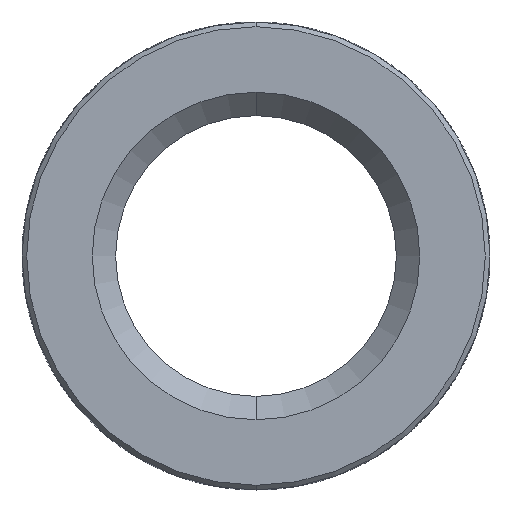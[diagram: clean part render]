
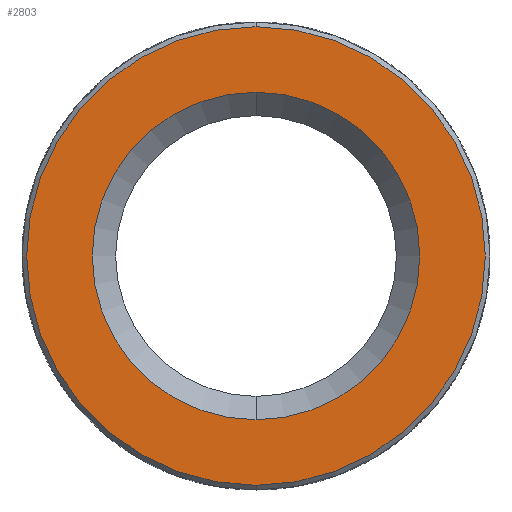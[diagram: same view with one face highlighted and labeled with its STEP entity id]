
A CAD part, front view. The second image highlights one B-rep face of the part: STEP entity #2803.
In plain terms, the highlighted planar face has unit normal (0, -1, 0).
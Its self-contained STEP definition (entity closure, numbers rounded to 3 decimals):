
#143 = CIRCLE ( 'NONE', #3414, 4.9 ) ;
#151 = CARTESIAN_POINT ( 'NONE',  ( 0., -8.6, 0. ) ) ;
#186 = EDGE_CURVE ( 'NONE', #2728, #1153, #2610, .T. ) ;
#327 = FACE_OUTER_BOUND ( 'NONE', #1294, .T. ) ;
#634 = AXIS2_PLACEMENT_3D ( 'NONE', #151, #992, #1862 ) ;
#720 = DIRECTION ( 'NONE',  ( 0., 0., -1. ) ) ;
#992 = DIRECTION ( 'NONE',  ( 0., 1., 0. ) ) ;
#1153 = VERTEX_POINT ( 'NONE', #1986 ) ;
#1264 = DIRECTION ( 'NONE',  ( 0., -1., 0. ) ) ;
#1277 = CARTESIAN_POINT ( 'NONE',  ( 0., -8.6, -3.5 ) ) ;
#1294 = EDGE_LOOP ( 'NONE', ( #2772, #1741 ) ) ;
#1306 = CARTESIAN_POINT ( 'NONE',  ( 0., -8.6, 4.9 ) ) ;
#1562 = DIRECTION ( 'NONE',  ( 0., 0., -1. ) ) ;
#1575 = DIRECTION ( 'NONE',  ( 0., -1., 0. ) ) ;
#1615 = CARTESIAN_POINT ( 'NONE',  ( 0., -8.6, 0. ) ) ;
#1741 = ORIENTED_EDGE ( 'NONE', *, *, #2252, .T. ) ;
#1784 = CARTESIAN_POINT ( 'NONE',  ( 0., -8.6, 0. ) ) ;
#1813 = FACE_BOUND ( 'NONE', #3449, .T. ) ;
#1862 = DIRECTION ( 'NONE',  ( 0., 0., -1. ) ) ;
#1891 = ORIENTED_EDGE ( 'NONE', *, *, #2166, .T. ) ;
#1978 = VERTEX_POINT ( 'NONE', #1306 ) ;
#1986 = CARTESIAN_POINT ( 'NONE',  ( 0., -8.6, 3.5 ) ) ;
#2036 = EDGE_CURVE ( 'NONE', #1978, #3755, #2586, .T. ) ;
#2049 = AXIS2_PLACEMENT_3D ( 'NONE', #3015, #1575, #720 ) ;
#2166 = EDGE_CURVE ( 'NONE', #1153, #2728, #3354, .T. ) ;
#2252 = EDGE_CURVE ( 'NONE', #3755, #1978, #143, .T. ) ;
#2586 = CIRCLE ( 'NONE', #3098, 4.9 ) ;
#2594 = DIRECTION ( 'NONE',  ( 0., 1., 0. ) ) ;
#2610 = CIRCLE ( 'NONE', #634, 3.5 ) ;
#2643 = DIRECTION ( 'NONE',  ( 0., -1., 0. ) ) ;
#2663 = CARTESIAN_POINT ( 'NONE',  ( 0., -8.6, -4.9 ) ) ;
#2728 = VERTEX_POINT ( 'NONE', #1277 ) ;
#2772 = ORIENTED_EDGE ( 'NONE', *, *, #2036, .T. ) ;
#2803 = ADVANCED_FACE ( 'NONE', ( #327, #1813 ), #3024, .T. ) ;
#2825 = ORIENTED_EDGE ( 'NONE', *, *, #186, .T. ) ;
#2837 = AXIS2_PLACEMENT_3D ( 'NONE', #3128, #2594, #3454 ) ;
#3015 = CARTESIAN_POINT ( 'NONE',  ( 0., -8.6, 5. ) ) ;
#3024 = PLANE ( 'NONE',  #2049 ) ;
#3098 = AXIS2_PLACEMENT_3D ( 'NONE', #1615, #1264, #1562 ) ;
#3128 = CARTESIAN_POINT ( 'NONE',  ( 0., -8.6, 0. ) ) ;
#3354 = CIRCLE ( 'NONE', #2837, 3.5 ) ;
#3414 = AXIS2_PLACEMENT_3D ( 'NONE', #1784, #2643, #3477 ) ;
#3449 = EDGE_LOOP ( 'NONE', ( #2825, #1891 ) ) ;
#3454 = DIRECTION ( 'NONE',  ( 0., 0., -1. ) ) ;
#3477 = DIRECTION ( 'NONE',  ( 0., 0., -1. ) ) ;
#3755 = VERTEX_POINT ( 'NONE', #2663 ) ;
